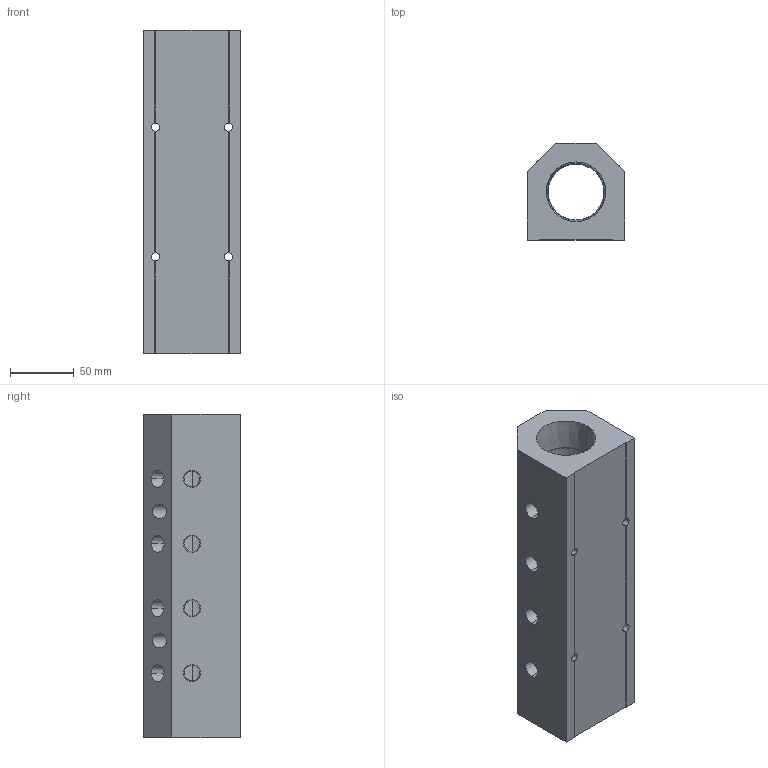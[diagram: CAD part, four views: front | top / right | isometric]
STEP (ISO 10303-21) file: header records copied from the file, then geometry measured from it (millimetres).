
FILE_DESCRIPTION (( 'STEP AP214' ), '1' );
FILE_NAME ('ALM4ABC-N4N24-254R.step', '2022-02-07T07:39:38', ( '' ), ( '' ), 'SwSTEP 2.0', 'SolidWorks 2020', '' );
FILE_SCHEMA (( 'AUTOMOTIVE_DESIGN' ));
Length unit declared in the file: millimetre
Products named in the file (1): ALM4ABC-N4N24-254R
Bounding box: 76.2 x 76.2 x 254 mm (x, y, z)
Volume: 913677 mm3; surface area: 123942.3 mm2
Topology: 1 solids, 1 shells, 343 faces, 914 edges, 604 vertices
Faces by surface type: plane 249, bspline 48, cone 28, cylinder 18
Entity records: 18153 total; most frequent: CARTESIAN_POINT 6642, ORIENTED_EDGE 1828, DIRECTION 1430, EDGE_CURVE 914, LINE 718, VECTOR 718, VERTEX_POINT 604, EDGE_LOOP 408
